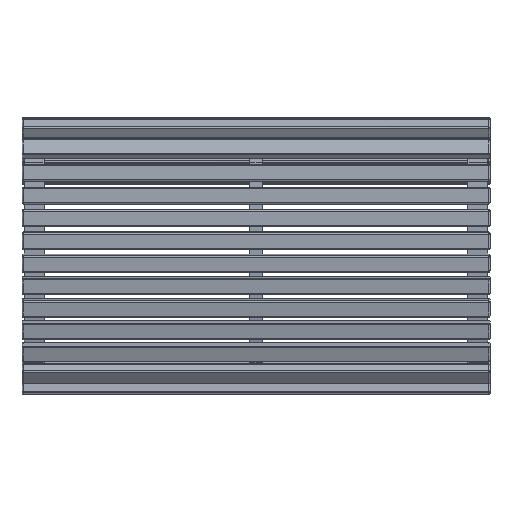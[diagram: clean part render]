
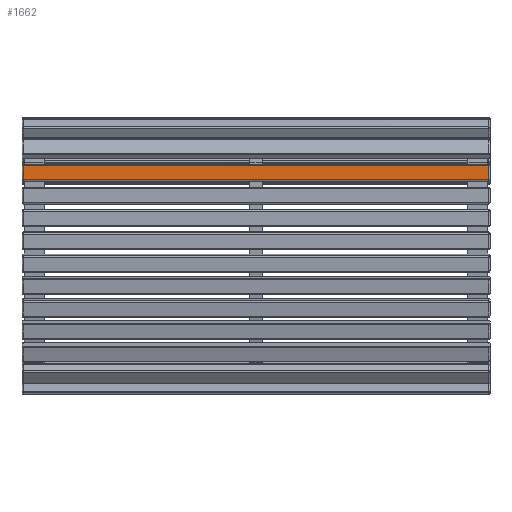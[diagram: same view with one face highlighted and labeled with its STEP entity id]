
A CAD part, top view. The second image highlights one B-rep face of the part: STEP entity #1662.
In plain terms, the highlighted planar face has unit normal (0, -0.007, 1).
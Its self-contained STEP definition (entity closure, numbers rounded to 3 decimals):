
#1662=ADVANCED_FACE('',(#2632),#13806,.T.);
#2632=FACE_OUTER_BOUND('',#3602,.T.);
#3602=EDGE_LOOP('',(#5446,#5447,#5448,#5449));
#5446=ORIENTED_EDGE('',*,*,#9222,.F.);
#5447=ORIENTED_EDGE('',*,*,#9206,.F.);
#5448=ORIENTED_EDGE('',*,*,#9223,.F.);
#5449=ORIENTED_EDGE('',*,*,#9215,.F.);
#9206=EDGE_CURVE('',#12747,#12746,#11184,.T.);
#9215=EDGE_CURVE('',#12756,#12757,#11189,.T.);
#9222=EDGE_CURVE('',#12746,#12756,#11194,.T.);
#9223=EDGE_CURVE('',#12757,#12747,#11195,.T.);
#11184=B_SPLINE_CURVE_WITH_KNOTS('',1,(#18302,#18303),.UNSPECIFIED.,.F.,
 .F.,(2,2),(-43.2,14.2),.UNSPECIFIED.);
#11189=B_SPLINE_CURVE_WITH_KNOTS('',1,(#18324,#18325),.UNSPECIFIED.,.F.,
 .F.,(2,2),(-43.2,14.2),.UNSPECIFIED.);
#11194=B_SPLINE_CURVE_WITH_KNOTS('',1,(#18340,#18341),.UNSPECIFIED.,.F.,
 .F.,(2,2),(-2.85,0.75),.UNSPECIFIED.);
#11195=B_SPLINE_CURVE_WITH_KNOTS('',1,(#18342,#18343),.UNSPECIFIED.,.F.,
 .F.,(2,2),(-2.85,0.75),.UNSPECIFIED.);
#12746=VERTEX_POINT('',#18272);
#12747=VERTEX_POINT('',#18273);
#12756=VERTEX_POINT('',#18282);
#12757=VERTEX_POINT('',#18283);
#13806=PLANE('',#14318);
#14318=AXIS2_PLACEMENT_3D('',#18144,#14813,$);
#14813=DIRECTION('',(0.,-0.007,1.));
#18144=CARTESIAN_POINT('',(1187.021,545.16,443.551));
#18272=CARTESIAN_POINT('',(3.,545.17,443.551));
#18273=CARTESIAN_POINT('',(1187.,545.17,443.551));
#18282=CARTESIAN_POINT('',(3.,581.169,443.807));
#18283=CARTESIAN_POINT('',(1187.,581.169,443.807));
#18302=CARTESIAN_POINT('',(1187.,545.17,443.551));
#18303=CARTESIAN_POINT('',(3.,545.17,443.551));
#18324=CARTESIAN_POINT('',(3.,581.169,443.807));
#18325=CARTESIAN_POINT('',(1187.,581.169,443.807));
#18340=CARTESIAN_POINT('',(3.,545.17,443.551));
#18341=CARTESIAN_POINT('',(3.,581.169,443.807));
#18342=CARTESIAN_POINT('',(1187.,581.169,443.807));
#18343=CARTESIAN_POINT('',(1187.,545.17,443.551));
